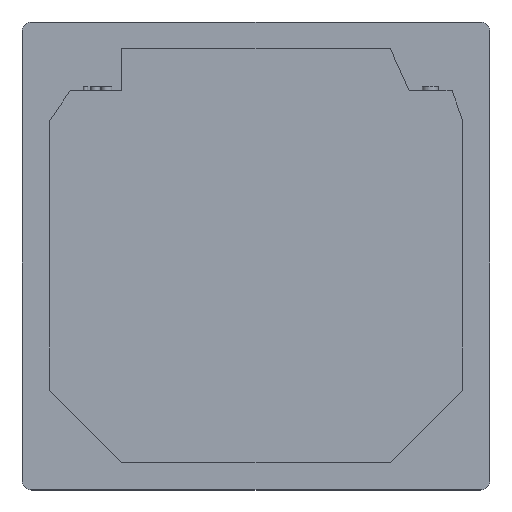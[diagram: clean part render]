
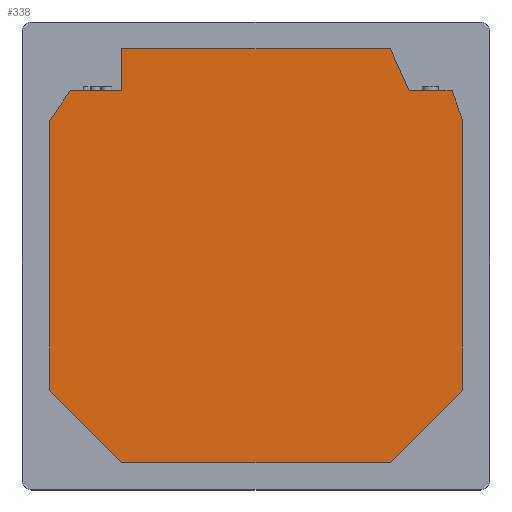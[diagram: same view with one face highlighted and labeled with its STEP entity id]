
A CAD part, top view. The second image highlights one B-rep face of the part: STEP entity #338.
In plain terms, the highlighted planar face has unit normal (0, 0, 1).
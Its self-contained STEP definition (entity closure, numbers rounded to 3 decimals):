
#46 = VERTEX_POINT('',#47);
#47 = CARTESIAN_POINT('',(-420.,272.791,300.));
#53 = EDGE_CURVE('',#46,#54,#56,.T.);
#54 = VERTEX_POINT('',#55);
#55 = CARTESIAN_POINT('',(-420.,-272.791,300.));
#56 = LINE('',#57,#58);
#57 = CARTESIAN_POINT('',(-420.,272.791,300.));
#58 = VECTOR('',#59,1.);
#59 = DIRECTION('',(0.,-1.,0.));
#84 = EDGE_CURVE('',#46,#85,#87,.T.);
#85 = VERTEX_POINT('',#86);
#86 = CARTESIAN_POINT('',(-377.21,334.772,300.));
#87 = LINE('',#88,#89);
#88 = CARTESIAN_POINT('',(-420.,272.791,300.));
#89 = VECTOR('',#90,1.);
#90 = DIRECTION('',(0.568,0.823,0.));
#115 = EDGE_CURVE('',#54,#116,#118,.T.);
#116 = VERTEX_POINT('',#117);
#117 = CARTESIAN_POINT('',(-272.791,-420.,300.));
#118 = LINE('',#119,#120);
#119 = CARTESIAN_POINT('',(-420.,-272.791,300.));
#120 = VECTOR('',#121,1.);
#121 = DIRECTION('',(0.707,-0.707,0.));
#338 = ADVANCED_FACE('',(#339),#414,.T.);
#339 = FACE_BOUND('',#340,.T.);
#340 = EDGE_LOOP('',(#341,#342,#343,#351,#359,#367,#375,#383,#391,#399,
    #407,#413));
#341 = ORIENTED_EDGE('',*,*,#53,.T.);
#342 = ORIENTED_EDGE('',*,*,#115,.T.);
#343 = ORIENTED_EDGE('',*,*,#344,.T.);
#344 = EDGE_CURVE('',#116,#345,#347,.T.);
#345 = VERTEX_POINT('',#346);
#346 = CARTESIAN_POINT('',(272.791,-420.,300.));
#347 = LINE('',#348,#349);
#348 = CARTESIAN_POINT('',(-272.791,-420.,300.));
#349 = VECTOR('',#350,1.);
#350 = DIRECTION('',(1.,0.,0.));
#351 = ORIENTED_EDGE('',*,*,#352,.T.);
#352 = EDGE_CURVE('',#345,#353,#355,.T.);
#353 = VERTEX_POINT('',#354);
#354 = CARTESIAN_POINT('',(420.,-272.791,300.));
#355 = LINE('',#356,#357);
#356 = CARTESIAN_POINT('',(272.791,-420.,300.));
#357 = VECTOR('',#358,1.);
#358 = DIRECTION('',(0.707,0.707,0.));
#359 = ORIENTED_EDGE('',*,*,#360,.T.);
#360 = EDGE_CURVE('',#353,#361,#363,.T.);
#361 = VERTEX_POINT('',#362);
#362 = CARTESIAN_POINT('',(420.,272.791,300.));
#363 = LINE('',#364,#365);
#364 = CARTESIAN_POINT('',(420.,-272.791,300.));
#365 = VECTOR('',#366,1.);
#366 = DIRECTION('',(0.,1.,0.));
#367 = ORIENTED_EDGE('',*,*,#368,.T.);
#368 = EDGE_CURVE('',#361,#369,#371,.T.);
#369 = VERTEX_POINT('',#370);
#370 = CARTESIAN_POINT('',(398.13,334.772,300.));
#371 = LINE('',#372,#373);
#372 = CARTESIAN_POINT('',(420.,272.791,300.));
#373 = VECTOR('',#374,1.);
#374 = DIRECTION('',(-0.333,0.943,0.));
#375 = ORIENTED_EDGE('',*,*,#376,.T.);
#376 = EDGE_CURVE('',#369,#377,#379,.T.);
#377 = VERTEX_POINT('',#378);
#378 = CARTESIAN_POINT('',(310.91,334.772,300.));
#379 = LINE('',#380,#381);
#380 = CARTESIAN_POINT('',(398.13,334.772,300.));
#381 = VECTOR('',#382,1.);
#382 = DIRECTION('',(-1.,0.,0.));
#383 = ORIENTED_EDGE('',*,*,#384,.T.);
#384 = EDGE_CURVE('',#377,#385,#387,.T.);
#385 = VERTEX_POINT('',#386);
#386 = CARTESIAN_POINT('',(272.791,420.,300.));
#387 = LINE('',#388,#389);
#388 = CARTESIAN_POINT('',(310.91,334.772,300.));
#389 = VECTOR('',#390,1.);
#390 = DIRECTION('',(-0.408,0.913,0.));
#391 = ORIENTED_EDGE('',*,*,#392,.T.);
#392 = EDGE_CURVE('',#385,#393,#395,.T.);
#393 = VERTEX_POINT('',#394);
#394 = CARTESIAN_POINT('',(-272.791,420.,300.));
#395 = LINE('',#396,#397);
#396 = CARTESIAN_POINT('',(272.791,420.,300.));
#397 = VECTOR('',#398,1.);
#398 = DIRECTION('',(-1.,0.,0.));
#399 = ORIENTED_EDGE('',*,*,#400,.T.);
#400 = EDGE_CURVE('',#393,#401,#403,.T.);
#401 = VERTEX_POINT('',#402);
#402 = CARTESIAN_POINT('',(-272.791,334.772,300.));
#403 = LINE('',#404,#405);
#404 = CARTESIAN_POINT('',(-272.791,420.,300.));
#405 = VECTOR('',#406,1.);
#406 = DIRECTION('',(0.,-1.,0.));
#407 = ORIENTED_EDGE('',*,*,#408,.F.);
#408 = EDGE_CURVE('',#85,#401,#409,.T.);
#409 = LINE('',#410,#411);
#410 = CARTESIAN_POINT('',(-377.21,334.772,300.));
#411 = VECTOR('',#412,1.);
#412 = DIRECTION('',(1.,0.,0.));
#413 = ORIENTED_EDGE('',*,*,#84,.F.);
#414 = PLANE('',#415);
#415 = AXIS2_PLACEMENT_3D('',#416,#417,#418);
#416 = CARTESIAN_POINT('',(-0.692,9.701,300.));
#417 = DIRECTION('',(0.,0.,1.));
#418 = DIRECTION('',(1.,0.,0.));
